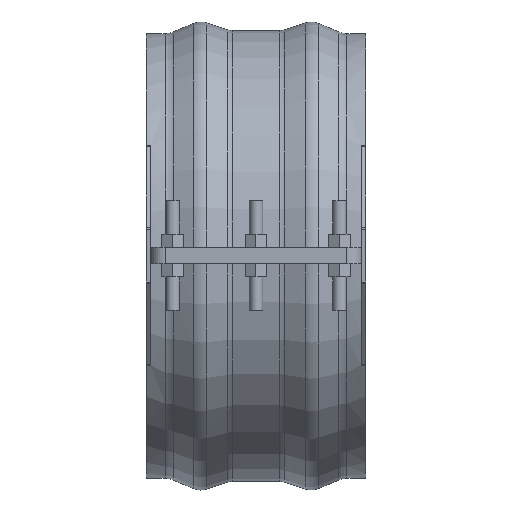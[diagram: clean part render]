
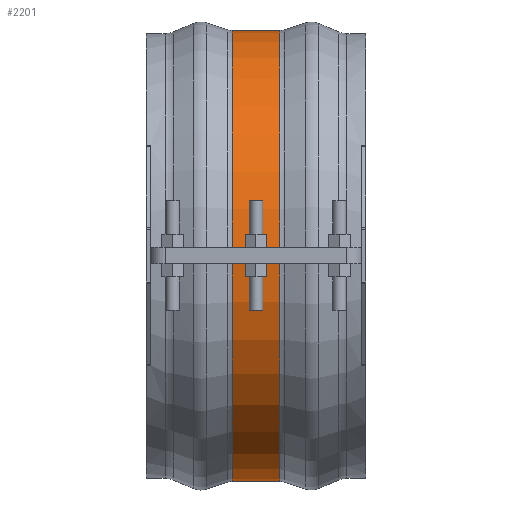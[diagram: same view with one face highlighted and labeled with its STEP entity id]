
A CAD part, top view. The second image highlights one B-rep face of the part: STEP entity #2201.
In plain terms, the highlighted cylindrical face has radius 261.049 mm (diameter 522.098 mm), a partial arc.
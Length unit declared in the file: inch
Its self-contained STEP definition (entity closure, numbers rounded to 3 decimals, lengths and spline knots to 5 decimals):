
#257=FACE_OUTER_BOUND('',#382,.T.);
#382=EDGE_LOOP('',(#1818,#1819,#1820,#1821));
#574=LINE('',#3584,#753);
#577=LINE('',#3669,#756);
#753=VECTOR('',#2893,0.3937);
#756=VECTOR('',#2904,0.3937);
#816=CIRCLE('',#2384,10.27751);
#817=CIRCLE('',#2386,10.27751);
#1017=VERTEX_POINT('',#3576);
#1018=VERTEX_POINT('',#3583);
#1029=VERTEX_POINT('',#3661);
#1030=VERTEX_POINT('',#3668);
#1290=EDGE_CURVE('',#1018,#1017,#574,.T.);
#1305=EDGE_CURVE('',#1030,#1029,#577,.T.);
#1316=EDGE_CURVE('',#1018,#1029,#816,.T.);
#1317=EDGE_CURVE('',#1017,#1030,#817,.T.);
#1818=ORIENTED_EDGE('',*,*,#1290,.T.);
#1819=ORIENTED_EDGE('',*,*,#1317,.T.);
#1820=ORIENTED_EDGE('',*,*,#1305,.T.);
#1821=ORIENTED_EDGE('',*,*,#1316,.F.);
#1994=CYLINDRICAL_SURFACE('',#2385,10.27751);
#2201=ADVANCED_FACE('',(#257),#1994,.T.);
#2384=AXIS2_PLACEMENT_3D('',#3717,#2925,#2926);
#2385=AXIS2_PLACEMENT_3D('',#3718,#2927,#2928);
#2386=AXIS2_PLACEMENT_3D('',#3719,#2929,#2930);
#2893=DIRECTION('',(-1.,0.,0.));
#2904=DIRECTION('',(1.,0.,0.));
#2925=DIRECTION('center_axis',(1.,0.,0.));
#2926=DIRECTION('ref_axis',(0.,0.,-1.));
#2927=DIRECTION('center_axis',(1.,0.,0.));
#2928=DIRECTION('ref_axis',(0.,0.,-1.));
#2929=DIRECTION('center_axis',(1.,0.,0.));
#2930=DIRECTION('ref_axis',(0.,0.,-1.));
#3576=CARTESIAN_POINT('',(-1.08851,-0.375,10.27067));
#3583=CARTESIAN_POINT('',(1.08851,-0.375,10.27067));
#3584=CARTESIAN_POINT('',(0.,-0.375,10.27067));
#3661=CARTESIAN_POINT('',(1.08851,0.375,10.27067));
#3668=CARTESIAN_POINT('',(-1.08851,0.375,10.27067));
#3669=CARTESIAN_POINT('',(0.,0.375,10.27067));
#3717=CARTESIAN_POINT('Origin',(1.08851,0.,0.));
#3718=CARTESIAN_POINT('Origin',(0.,0.,0.));
#3719=CARTESIAN_POINT('Origin',(-1.08851,0.,0.));
